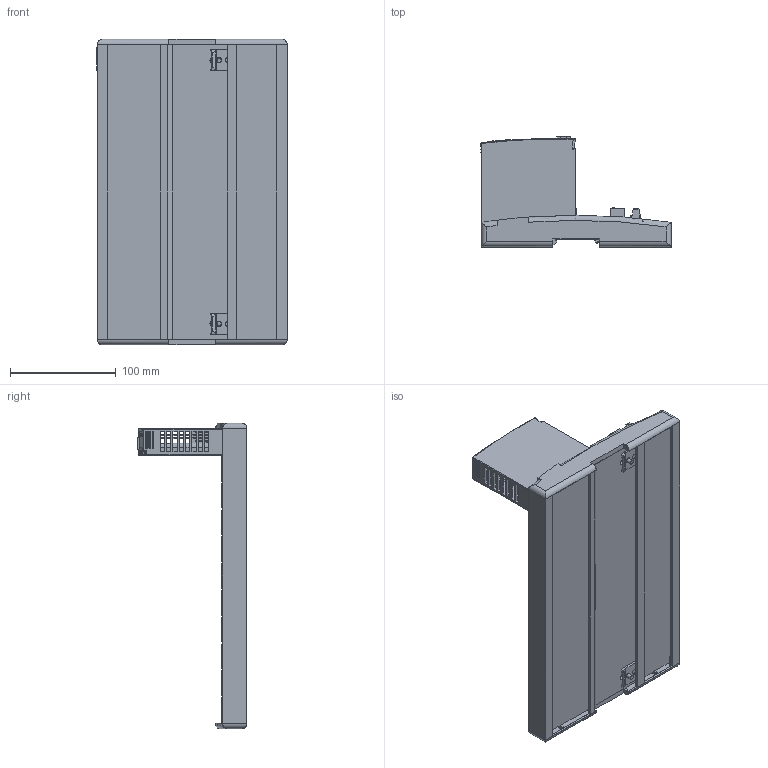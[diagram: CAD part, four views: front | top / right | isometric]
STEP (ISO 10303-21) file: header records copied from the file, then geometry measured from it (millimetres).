
FILE_DESCRIPTION((''),'2;1');
FILE_NAME('2500_10W_BLANK_IGESFILE','2012-04-11T',('chrisloe'),(''),'PRO/ENGINEER BY PARAMETRIC TECHNOLOGY CORPORATION, 2010180','PRO/ENGINEER BY PARAMETRIC TECHNOLOGY CORPORATION, 2010180','');
FILE_SCHEMA(('CONFIG_CONTROL_DESIGN'));
Products named in the file (1): 2500_10W_BLANK_IGESFILE
Bounding box: 180.4 x 104.1 x 289.4 mm (x, y, z)
Volume: 345000.3 mm3; surface area: 289778.2 mm2
Topology: 3 solids, 28 shells, 4125 faces, 11696 edges, 7494 vertices
Faces by surface type: plane 3085, cylinder 702, cone 169, bspline 102, torus 51, sphere 16
Entity records: 138540 total; most frequent: CARTESIAN_POINT 33035, ORIENTED_EDGE 23280, DIRECTION 20181, EDGE_CURVE 11644, VECTOR 8227, LINE 8227, VERTEX_POINT 7492, AXIS2_PLACEMENT_3D 5977
